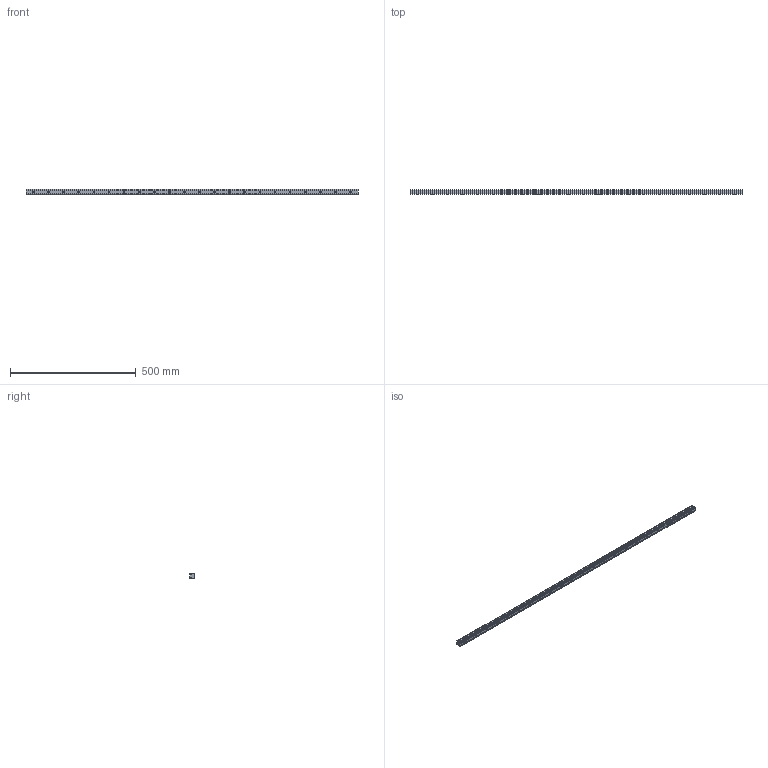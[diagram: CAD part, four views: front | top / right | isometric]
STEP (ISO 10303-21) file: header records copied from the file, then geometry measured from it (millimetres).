
FILE_DESCRIPTION (( 'STEP AP203' ), '1' );
FILE_NAME ('L1018.20R-1320.step', '2023-08-06T09:08:07', ( '' ), ( '' ), 'SwSTEP 2.0', 'SolidWorks 2019', '' );
FILE_SCHEMA (( 'CONFIG_CONTROL_DESIGN' ));
Length unit declared in the file: millimetre
Products named in the file (1): L1018.20R-1320
Bounding box: 1320 x 19.3 x 20 mm (x, y, z)
Volume: 418609.3 mm3; surface area: 112044.4 mm2
Topology: 1 solids, 1 shells, 227 faces, 521 edges, 296 vertices
Faces by surface type: cylinder 91, cone 88, plane 48
Entity records: 6146 total; most frequent: DIRECTION 1159, CARTESIAN_POINT 1001, ORIENTED_EDGE 954, EDGE_CURVE 477, AXIS2_PLACEMENT_3D 454, VERTEX_POINT 296, EDGE_LOOP 271, LINE 251
